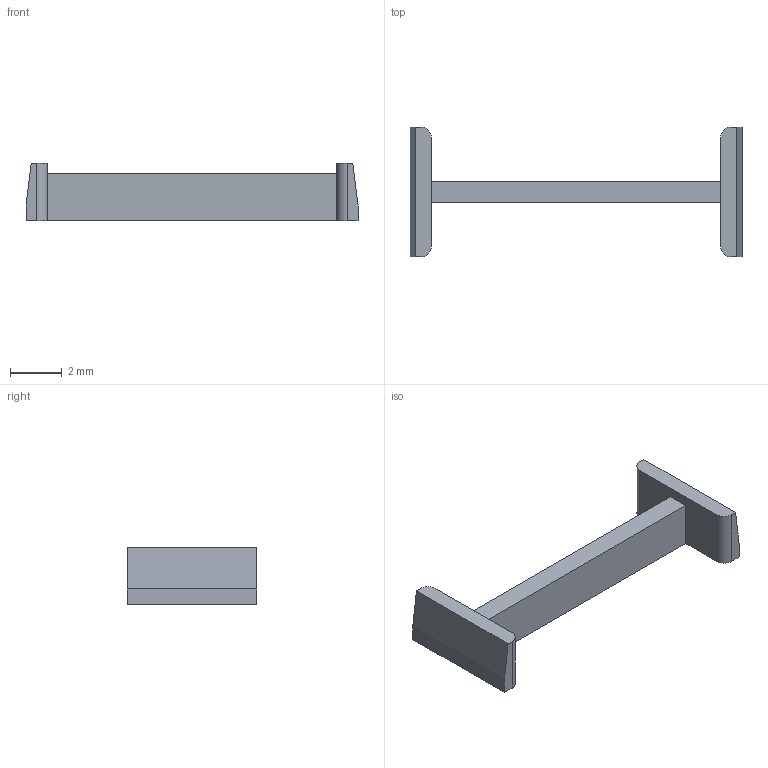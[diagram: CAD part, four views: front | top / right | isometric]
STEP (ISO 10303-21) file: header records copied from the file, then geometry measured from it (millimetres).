
FILE_DESCRIPTION(/* description */ (''),/* implementation_level */ '2;1');
FILE_NAME(/* name */ 'LED Strip Clip.step',/* time_stamp */ '2025-09-09T19:54:38+08:00',/* author */ (''),/* organization */ (''),/* preprocessor_version */ 'ST-DEVELOPER v20.1',/* originating_system */ 'Autodesk Translation Framework v14.10.0.0',/* authorisation */ '');
FILE_SCHEMA (('AUTOMOTIVE_DESIGN { 1 0 10303 214 3 1 1 }'));
Length unit declared in the file: millimetre
Products named in the file (1): Hex Light
Bounding box: 12.8 x 5 x 2.2 mm (x, y, z)
Volume: 32.6 mm3; surface area: 118.8 mm2
Topology: 1 solids, 1 shells, 20 faces, 54 edges, 36 vertices
Faces by surface type: plane 16, cylinder 4
Entity records: 701 total; most frequent: CARTESIAN_POINT 111, ORIENTED_EDGE 108, DIRECTION 104, EDGE_CURVE 54, LINE 46, VECTOR 46, VERTEX_POINT 36, AXIS2_PLACEMENT_3D 29
